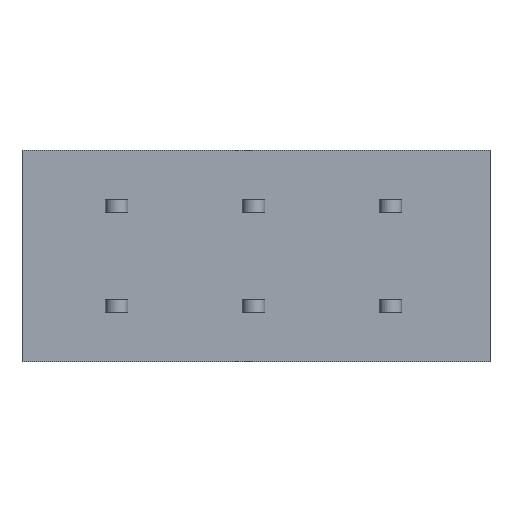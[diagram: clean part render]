
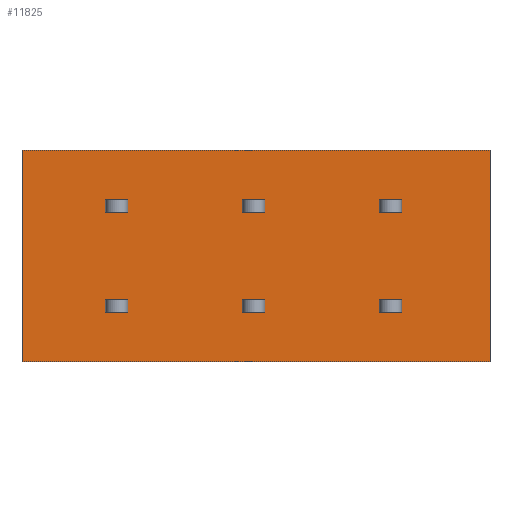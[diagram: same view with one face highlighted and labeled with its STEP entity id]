
A CAD part, front view. The second image highlights one B-rep face of the part: STEP entity #11825.
In plain terms, the highlighted planar face has unit normal (0, -1, 0).
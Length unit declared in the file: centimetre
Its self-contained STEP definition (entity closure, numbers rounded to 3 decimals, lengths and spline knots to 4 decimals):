
#606=VECTOR('',#12471,1.);
#610=VECTOR('',#12476,1.);
#618=VECTOR('',#12485,1.);
#624=VECTOR('',#12494,1.);
#630=VECTOR('',#12518,1.);
#633=VECTOR('',#12526,1.);
#636=VECTOR('',#12534,1.);
#637=VECTOR('',#12536,1.);
#1045=VECTOR('',#13085,1.);
#1152=VECTOR('',#13386,1.);
#1156=VECTOR('',#13391,1.);
#1162=VECTOR('',#13401,1.);
#1165=VECTOR('',#13407,1.);
#1168=VECTOR('',#13411,1.);
#1180=VECTOR('',#13447,1.);
#1181=VECTOR('',#13449,1.);
#1192=VECTOR('',#13465,1.);
#1297=VECTOR('',#13759,1.);
#1301=VECTOR('',#13764,1.);
#1307=VECTOR('',#13774,1.);
#1310=VECTOR('',#13780,1.);
#1313=VECTOR('',#13784,1.);
#1325=VECTOR('',#13820,1.);
#1326=VECTOR('',#13822,1.);
#1337=VECTOR('',#13838,1.);
#1825=VECTOR('',#14576,1.);
#1833=VECTOR('',#14593,1.);
#1834=VECTOR('',#14594,1.);
#1901=LINE('',#14876,#606);
#1905=LINE('',#14885,#610);
#1913=LINE('',#14902,#618);
#1919=LINE('',#14916,#624);
#1925=LINE('',#14937,#630);
#1928=LINE('',#14945,#633);
#1931=LINE('',#14953,#636);
#1932=LINE('',#14955,#637);
#2340=LINE('',#16467,#1045);
#2447=LINE('',#16855,#1152);
#2451=LINE('',#16864,#1156);
#2457=LINE('',#16879,#1162);
#2460=LINE('',#16888,#1165);
#2463=LINE('',#16894,#1168);
#2475=LINE('',#16929,#1180);
#2476=LINE('',#16931,#1181);
#2487=LINE('',#16952,#1192);
#2592=LINE('',#17327,#1297);
#2596=LINE('',#17336,#1301);
#2602=LINE('',#17351,#1307);
#2605=LINE('',#17360,#1310);
#2608=LINE('',#17366,#1313);
#2620=LINE('',#17401,#1325);
#2621=LINE('',#17403,#1326);
#2632=LINE('',#17424,#1337);
#3120=LINE('',#19151,#1825);
#3128=LINE('',#19176,#1833);
#3129=LINE('',#19177,#1834);
#3218=VERTEX_POINT('',#14877);
#3219=VERTEX_POINT('',#14878);
#3222=VERTEX_POINT('',#14886);
#3223=VERTEX_POINT('',#14887);
#3230=VERTEX_POINT('',#14903);
#3236=VERTEX_POINT('',#14917);
#3240=VERTEX_POINT('',#14938);
#3242=VERTEX_POINT('',#14946);
#3585=VERTEX_POINT('',#16468);
#3586=VERTEX_POINT('',#16469);
#3711=VERTEX_POINT('',#16856);
#3712=VERTEX_POINT('',#16857);
#3715=VERTEX_POINT('',#16865);
#3721=VERTEX_POINT('',#16880);
#3722=VERTEX_POINT('',#16881);
#3725=VERTEX_POINT('',#16889);
#3727=VERTEX_POINT('',#16895);
#3736=VERTEX_POINT('',#16932);
#3857=VERTEX_POINT('',#17328);
#3858=VERTEX_POINT('',#17329);
#3861=VERTEX_POINT('',#17337);
#3867=VERTEX_POINT('',#17352);
#3868=VERTEX_POINT('',#17353);
#3871=VERTEX_POINT('',#17361);
#3873=VERTEX_POINT('',#17367);
#3882=VERTEX_POINT('',#17404);
#4298=VERTEX_POINT('',#19152);
#4299=VERTEX_POINT('',#19153);
#4603=EDGE_CURVE('',#3218,#3219,#1901,.T.);
#4607=EDGE_CURVE('',#3222,#3223,#1905,.T.);
#4615=EDGE_CURVE('',#3230,#3218,#1913,.T.);
#4622=EDGE_CURVE('',#3236,#3222,#1919,.T.);
#4633=EDGE_CURVE('',#3219,#3240,#1925,.T.);
#4637=EDGE_CURVE('',#3223,#3242,#1928,.T.);
#4641=EDGE_CURVE('',#3242,#3236,#1931,.T.);
#4642=EDGE_CURVE('',#3240,#3230,#1932,.T.);
#5156=EDGE_CURVE('',#3585,#3586,#2340,.T.);
#5332=EDGE_CURVE('',#3711,#3712,#2447,.T.);
#5336=EDGE_CURVE('',#3715,#3711,#2451,.T.);
#5343=EDGE_CURVE('',#3721,#3722,#2457,.T.);
#5347=EDGE_CURVE('',#3725,#3721,#2460,.T.);
#5350=EDGE_CURVE('',#3727,#3725,#2463,.T.);
#5368=EDGE_CURVE('',#3722,#3727,#2475,.T.);
#5369=EDGE_CURVE('',#3736,#3715,#2476,.T.);
#5380=EDGE_CURVE('',#3712,#3736,#2487,.T.);
#5550=EDGE_CURVE('',#3857,#3858,#2592,.T.);
#5554=EDGE_CURVE('',#3861,#3857,#2596,.T.);
#5561=EDGE_CURVE('',#3867,#3868,#2602,.T.);
#5565=EDGE_CURVE('',#3871,#3867,#2605,.T.);
#5568=EDGE_CURVE('',#3873,#3871,#2608,.T.);
#5586=EDGE_CURVE('',#3868,#3873,#2620,.T.);
#5587=EDGE_CURVE('',#3882,#3861,#2621,.T.);
#5598=EDGE_CURVE('',#3858,#3882,#2632,.T.);
#6225=EDGE_CURVE('',#4298,#4299,#3120,.T.);
#6237=EDGE_CURVE('',#4299,#3585,#3128,.T.);
#6238=EDGE_CURVE('',#3586,#4298,#3129,.T.);
#9647=ORIENTED_EDGE('',*,*,#4637,.F.);
#9648=ORIENTED_EDGE('',*,*,#4607,.F.);
#9649=ORIENTED_EDGE('',*,*,#4622,.F.);
#9650=ORIENTED_EDGE('',*,*,#4641,.F.);
#9651=ORIENTED_EDGE('',*,*,#4633,.F.);
#9652=ORIENTED_EDGE('',*,*,#4603,.F.);
#9653=ORIENTED_EDGE('',*,*,#4615,.F.);
#9654=ORIENTED_EDGE('',*,*,#4642,.F.);
#9655=ORIENTED_EDGE('',*,*,#5554,.T.);
#9656=ORIENTED_EDGE('',*,*,#5550,.T.);
#9657=ORIENTED_EDGE('',*,*,#5598,.T.);
#9658=ORIENTED_EDGE('',*,*,#5587,.T.);
#9659=ORIENTED_EDGE('',*,*,#5568,.T.);
#9660=ORIENTED_EDGE('',*,*,#5565,.T.);
#9661=ORIENTED_EDGE('',*,*,#5561,.T.);
#9662=ORIENTED_EDGE('',*,*,#5586,.T.);
#9663=ORIENTED_EDGE('',*,*,#5350,.T.);
#9664=ORIENTED_EDGE('',*,*,#5347,.T.);
#9665=ORIENTED_EDGE('',*,*,#5343,.T.);
#9666=ORIENTED_EDGE('',*,*,#5368,.T.);
#9667=ORIENTED_EDGE('',*,*,#5336,.T.);
#9668=ORIENTED_EDGE('',*,*,#5332,.T.);
#9669=ORIENTED_EDGE('',*,*,#5380,.T.);
#9670=ORIENTED_EDGE('',*,*,#5369,.T.);
#9671=ORIENTED_EDGE('',*,*,#6225,.T.);
#9672=ORIENTED_EDGE('',*,*,#6237,.T.);
#9673=ORIENTED_EDGE('',*,*,#5156,.T.);
#9674=ORIENTED_EDGE('',*,*,#6238,.T.);
#10453=EDGE_LOOP('',(#9647,#9648,#9649,#9650));
#10454=EDGE_LOOP('',(#9651,#9652,#9653,#9654));
#10455=EDGE_LOOP('',(#9655,#9656,#9657,#9658));
#10456=EDGE_LOOP('',(#9659,#9660,#9661,#9662));
#10457=EDGE_LOOP('',(#9663,#9664,#9665,#9666));
#10458=EDGE_LOOP('',(#9667,#9668,#9669,#9670));
#10459=EDGE_LOOP('',(#9671,#9672,#9673,#9674));
#11171=FACE_BOUND('',#10453,.T.);
#11172=FACE_BOUND('',#10454,.T.);
#11173=FACE_BOUND('',#10455,.T.);
#11174=FACE_BOUND('',#10456,.T.);
#11175=FACE_BOUND('',#10457,.T.);
#11176=FACE_BOUND('',#10458,.T.);
#11177=FACE_BOUND('',#10459,.T.);
#11825=ADVANCED_FACE('',(#11171,#11172,#11173,#11174,#11175,#11176,#11177),
#12265,.T.);
#12265=PLANE('',#19933);
#12471=DIRECTION('',(0.,0.,1.));
#12476=DIRECTION('',(0.,0.,-1.));
#12485=DIRECTION('',(1.,0.,0.));
#12494=DIRECTION('',(-1.,0.,0.));
#12518=DIRECTION('',(-1.,0.,0.));
#12526=DIRECTION('',(1.,0.,0.));
#12534=DIRECTION('',(0.,0.,1.));
#12536=DIRECTION('',(0.,0.,-1.));
#13085=DIRECTION('',(0.,0.,1.));
#13386=DIRECTION('',(0.,0.,-1.));
#13391=DIRECTION('',(1.,0.,0.));
#13401=DIRECTION('',(1.,0.,0.));
#13407=DIRECTION('',(0.,0.,1.));
#13411=DIRECTION('',(-1.,0.,0.));
#13447=DIRECTION('',(0.,0.,-1.));
#13449=DIRECTION('',(0.,0.,1.));
#13465=DIRECTION('',(-1.,0.,0.));
#13759=DIRECTION('',(0.,0.,-1.));
#13764=DIRECTION('',(1.,0.,0.));
#13774=DIRECTION('',(1.,0.,0.));
#13780=DIRECTION('',(0.,0.,1.));
#13784=DIRECTION('',(-1.,0.,0.));
#13820=DIRECTION('',(0.,0.,-1.));
#13822=DIRECTION('',(0.,0.,1.));
#13838=DIRECTION('',(-1.,0.,0.));
#14576=DIRECTION('',(0.,0.,-1.));
#14592=DIRECTION('',(0.,-1.,0.));
#14593=DIRECTION('',(1.,0.,0.));
#14594=DIRECTION('',(-1.,0.,0.));
#14876=CARTESIAN_POINT('',(-0.38,0.,-0.2));
#14877=CARTESIAN_POINT('',(-0.38,0.,-0.45));
#14878=CARTESIAN_POINT('',(-0.38,0.,-0.35));
#14885=CARTESIAN_POINT('',(-0.56,0.,0.2));
#14886=CARTESIAN_POINT('',(-0.56,0.,0.45));
#14887=CARTESIAN_POINT('',(-0.56,0.,0.35));
#14902=CARTESIAN_POINT('',(-0.685,0.,-0.45));
#14903=CARTESIAN_POINT('',(-0.56,0.,-0.45));
#14916=CARTESIAN_POINT('',(-0.685,0.,0.45));
#14917=CARTESIAN_POINT('',(-0.38,0.,0.45));
#14937=CARTESIAN_POINT('',(-0.685,0.,-0.35));
#14938=CARTESIAN_POINT('',(-0.56,0.,-0.35));
#14945=CARTESIAN_POINT('',(-0.685,0.,0.35));
#14946=CARTESIAN_POINT('',(-0.38,0.,0.35));
#14953=CARTESIAN_POINT('',(-0.38,0.,0.2));
#14955=CARTESIAN_POINT('',(-0.56,0.,-0.2));
#16467=CARTESIAN_POINT('',(2.53,0.,0.85));
#16468=CARTESIAN_POINT('',(2.53,0.,-0.85));
#16469=CARTESIAN_POINT('',(2.53,0.,0.85));
#16855=CARTESIAN_POINT('',(1.82,0.,-0.2));
#16856=CARTESIAN_POINT('',(1.82,0.,-0.35));
#16857=CARTESIAN_POINT('',(1.82,0.,-0.45));
#16864=CARTESIAN_POINT('',(0.865,0.,-0.35));
#16865=CARTESIAN_POINT('',(1.64,0.,-0.35));
#16879=CARTESIAN_POINT('',(0.865,0.,0.45));
#16880=CARTESIAN_POINT('',(1.64,0.,0.45));
#16881=CARTESIAN_POINT('',(1.82,0.,0.45));
#16888=CARTESIAN_POINT('',(1.64,0.,0.2));
#16889=CARTESIAN_POINT('',(1.64,0.,0.35));
#16894=CARTESIAN_POINT('',(0.865,0.,0.35));
#16895=CARTESIAN_POINT('',(1.82,0.,0.35));
#16929=CARTESIAN_POINT('',(1.82,0.,0.2));
#16931=CARTESIAN_POINT('',(1.64,0.,-0.2));
#16932=CARTESIAN_POINT('',(1.64,0.,-0.45));
#16952=CARTESIAN_POINT('',(0.865,0.,-0.45));
#17327=CARTESIAN_POINT('',(0.72,0.,-0.2));
#17328=CARTESIAN_POINT('',(0.72,0.,-0.35));
#17329=CARTESIAN_POINT('',(0.72,0.,-0.45));
#17336=CARTESIAN_POINT('',(0.315,0.,-0.35));
#17337=CARTESIAN_POINT('',(0.54,0.,-0.35));
#17351=CARTESIAN_POINT('',(0.315,0.,0.45));
#17352=CARTESIAN_POINT('',(0.54,0.,0.45));
#17353=CARTESIAN_POINT('',(0.72,0.,0.45));
#17360=CARTESIAN_POINT('',(0.54,0.,0.2));
#17361=CARTESIAN_POINT('',(0.54,0.,0.35));
#17366=CARTESIAN_POINT('',(0.315,0.,0.35));
#17367=CARTESIAN_POINT('',(0.72,0.,0.35));
#17401=CARTESIAN_POINT('',(0.72,0.,0.2));
#17403=CARTESIAN_POINT('',(0.54,0.,-0.2));
#17404=CARTESIAN_POINT('',(0.54,0.,-0.45));
#17424=CARTESIAN_POINT('',(0.315,0.,-0.45));
#19151=CARTESIAN_POINT('',(-1.23,0.,-0.85));
#19152=CARTESIAN_POINT('',(-1.23,0.,0.85));
#19153=CARTESIAN_POINT('',(-1.23,0.,-0.85));
#19175=CARTESIAN_POINT('',(-1.1,0.,0.));
#19176=CARTESIAN_POINT('',(-1.1,0.,-0.85));
#19177=CARTESIAN_POINT('',(-1.1,0.,0.85));
#19933=AXIS2_PLACEMENT_3D('',#19175,#14592,$);
